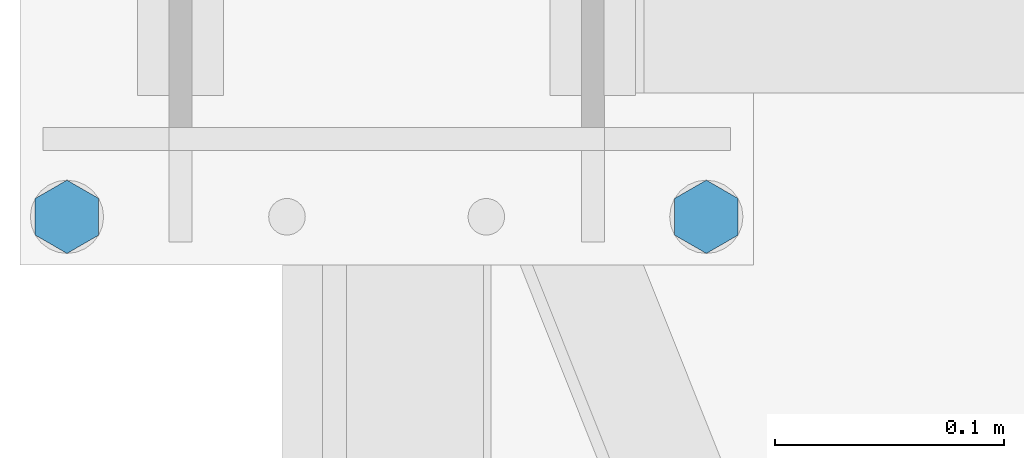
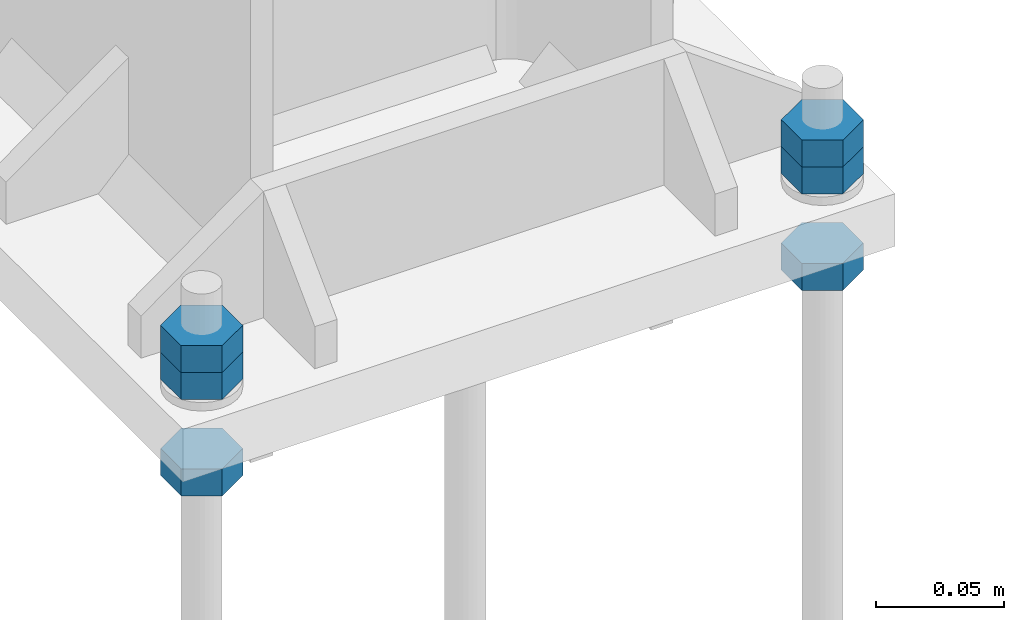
# One storey, part 70 of 251: 6 mechanical fasteners.
"""IFC4 building model written with IfcOpenShell, lengths in metres."""

from ifc_helpers import new_model, si_unit, frame, origin_with_axes, place, context, project, spatial, polyline, outline, extrude, type_object, element, save


model = new_model("IFC4")

# Units and contexts
model_context = context("Model", 3, precision=1e-05, world=origin_with_axes())
ifc_project = project(units=[si_unit("LENGTHUNIT", "METRE"), si_unit("AREAUNIT", "SQUARE_METRE"), si_unit("VOLUMEUNIT", "CUBIC_METRE"), si_unit("MASSUNIT", "GRAM", prefix="KILO"), si_unit("TIMEUNIT", "SECOND"), si_unit("PLANEANGLEUNIT", "RADIAN"), si_unit("SOLIDANGLEUNIT", "STERADIAN"), si_unit("THERMODYNAMICTEMPERATUREUNIT", "DEGREE_CELSIUS")], contexts=[model_context])

# Site, building, storey
placement_1 = place(None, origin_with_axes())
site = spatial("IfcSite", under=ifc_project, at=placement_1, Name="Italia", CompositionType="ELEMENT")
building = spatial("IfcBuilding", under=site, at=placement_1, Name="Deposito", CompositionType="ELEMENT")
storey = spatial("IfcBuildingStorey", under=building, at=placement_1, Name="Storey 0", CompositionType="ELEMENT", Elevation=0.0)

# Mechanical fasteners
mechanical_fastener_type_1 = type_object("IfcMechanicalFastenerType", Name="Collegamenti 0014_-001 0016_-054 0018_-056 0032_-002 0033_-058 0047_-003 0048_-060 0062_-004 0063_-005 0079_-008", PredefinedType="BOLT")
placement_2 = place(placement_1, origin_with_axes())
mechanical_fastener_1_placement = place(placement_2, origin_with_axes())
element("IfcMechanicalFastener", 1, at=mechanical_fastener_1_placement, inside=storey, type_object=mechanical_fastener_type_1, Name="Collegamenti 0014_-001 0016_-054 0018_-056 0032_-002 0033_-058 0047_-003 0048_-060 0062_-004 0063_-005 0079_-008", NominalDiameter=0.0159998, context=model_context, shape_type="SweptSolid", body=[
    extrude(outline(polyline([(0.0, 0.0), (-0.0159998, 0.0), (-0.0240002, 0.0138569), (-0.0159998, 0.0277138), (0.0, 0.0277138), (0.0079999, 0.0138569), (0.0, 0.0)])), frame((6.20336, 4.869, 0.079), z_axis=(0.0, 0.0, 1.0), x_axis=(0.0, 1.0, 0.0)), (0.0, 0.0, 1.0), 0.0128),
])
mechanical_fastener_type_2 = type_object("IfcMechanicalFastenerType", Name="Collegamenti 0014_-001 0016_-054 0018_-056 0032_-002 0033_-058 0047_-003 0048_-060 0062_-004 0063_-005 0079_-008", PredefinedType="BOLT")
mechanical_fastener_2_placement = place(placement_2, origin_with_axes())
element("IfcMechanicalFastener", 2, at=mechanical_fastener_2_placement, inside=storey, type_object=mechanical_fastener_type_2, Name="Collegamenti 0014_-001 0016_-054 0018_-056 0032_-002 0033_-058 0047_-003 0048_-060 0062_-004 0063_-005 0079_-008", NominalDiameter=0.0159998, context=model_context, shape_type="SweptSolid", body=[
    extrude(outline(polyline([(0.0, 0.0), (-0.0159998, 0.0), (-0.0240002, 0.0138569), (-0.0159998, 0.0277138), (0.0, 0.0277138), (0.0079999, 0.0138569), (0.0, 0.0)])), frame((6.20336, 4.869, 0.0918), z_axis=(0.0, 0.0, 1.0), x_axis=(0.0, 1.0, 0.0)), (0.0, 0.0, 1.0), 0.0128),
])
mechanical_fastener_type_3 = type_object("IfcMechanicalFastenerType", Name="Collegamenti 0014_-001 0016_-054 0018_-056 0032_-002 0033_-058 0047_-003 0048_-060 0062_-004 0063_-005 0079_-008", PredefinedType="BOLT")
mechanical_fastener_3_placement = place(placement_2, origin_with_axes())
element("IfcMechanicalFastener", 3, at=mechanical_fastener_3_placement, inside=storey, type_object=mechanical_fastener_type_3, Name="Collegamenti 0014_-001 0016_-054 0018_-056 0032_-002 0033_-058 0047_-003 0048_-060 0062_-004 0063_-005 0079_-008", NominalDiameter=0.0159998, context=model_context, shape_type="SweptSolid", body=[
    extrude(outline(polyline([(0.0, 0.0), (-0.0159998, 0.0), (-0.0240002, 0.0138569), (-0.0159998, 0.0277138), (0.0, 0.0277138), (0.0079999, 0.0138569), (0.0, 0.0)])), frame((6.20336, 4.869, 0.0332), z_axis=(0.0, 0.0, 1.0), x_axis=(0.0, 1.0, 0.0)), (0.0, 0.0, 1.0), 0.0128),
])
mechanical_fastener_type_4 = type_object("IfcMechanicalFastenerType", Name="Collegamenti 0014_-001 0016_-054 0018_-056 0032_-002 0033_-058 0047_-003 0048_-060 0062_-004 0063_-005 0079_-008", PredefinedType="BOLT")
mechanical_fastener_4_placement = place(placement_2, origin_with_axes())
element("IfcMechanicalFastener", 4, at=mechanical_fastener_4_placement, inside=storey, type_object=mechanical_fastener_type_4, Name="Collegamenti 0014_-001 0016_-054 0018_-056 0032_-002 0033_-058 0047_-003 0048_-060 0062_-004 0063_-005 0079_-008", NominalDiameter=0.0159998, context=model_context, shape_type="SweptSolid", body=[
    extrude(outline(polyline([(0.0, 0.0), (-0.0159998, 0.0), (-0.0240002, 0.0138569), (-0.0159998, 0.0277138), (0.0, 0.0277138), (0.0079999, 0.0138569), (0.0, 0.0)])), frame((5.92436, 4.869, 0.079), z_axis=(0.0, 0.0, 1.0), x_axis=(0.0, 1.0, 0.0)), (0.0, 0.0, 1.0), 0.0128),
])
mechanical_fastener_type_5 = type_object("IfcMechanicalFastenerType", Name="Collegamenti 0014_-001 0016_-054 0018_-056 0032_-002 0033_-058 0047_-003 0048_-060 0062_-004 0063_-005 0079_-008", PredefinedType="BOLT")
mechanical_fastener_5_placement = place(placement_2, origin_with_axes())
element("IfcMechanicalFastener", 5, at=mechanical_fastener_5_placement, inside=storey, type_object=mechanical_fastener_type_5, Name="Collegamenti 0014_-001 0016_-054 0018_-056 0032_-002 0033_-058 0047_-003 0048_-060 0062_-004 0063_-005 0079_-008", NominalDiameter=0.0159998, context=model_context, shape_type="SweptSolid", body=[
    extrude(outline(polyline([(0.0, 0.0), (-0.0159998, 0.0), (-0.0240002, 0.0138569), (-0.0159998, 0.0277138), (0.0, 0.0277138), (0.0079999, 0.0138569), (0.0, 0.0)])), frame((5.92436, 4.869, 0.0918), z_axis=(0.0, 0.0, 1.0), x_axis=(0.0, 1.0, 0.0)), (0.0, 0.0, 1.0), 0.0128),
])
mechanical_fastener_type_6 = type_object("IfcMechanicalFastenerType", Name="Collegamenti 0014_-001 0016_-054 0018_-056 0032_-002 0033_-058 0047_-003 0048_-060 0062_-004 0063_-005 0079_-008", PredefinedType="BOLT")
mechanical_fastener_6_placement = place(placement_2, origin_with_axes())
element("IfcMechanicalFastener", 6, at=mechanical_fastener_6_placement, inside=storey, type_object=mechanical_fastener_type_6, Name="Collegamenti 0014_-001 0016_-054 0018_-056 0032_-002 0033_-058 0047_-003 0048_-060 0062_-004 0063_-005 0079_-008", NominalDiameter=0.0159998, context=model_context, shape_type="SweptSolid", body=[
    extrude(outline(polyline([(0.0, 0.0), (-0.0159998, 0.0), (-0.0240002, 0.0138569), (-0.0159998, 0.0277138), (0.0, 0.0277138), (0.0079999, 0.0138569), (0.0, 0.0)])), frame((5.92436, 4.869, 0.0332), z_axis=(0.0, 0.0, 1.0), x_axis=(0.0, 1.0, 0.0)), (0.0, 0.0, 1.0), 0.0128),
])

save(model, "model.ifc")
